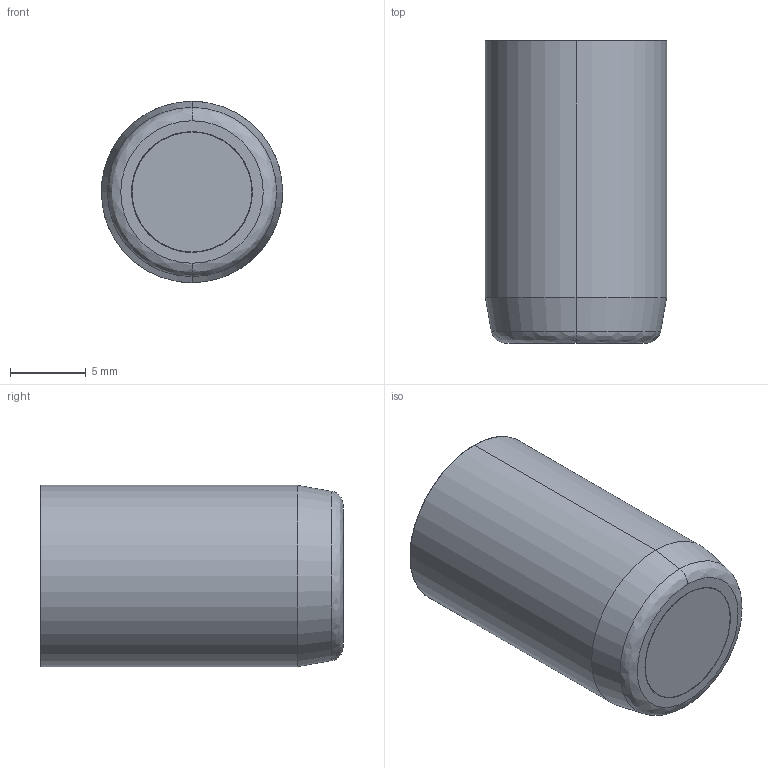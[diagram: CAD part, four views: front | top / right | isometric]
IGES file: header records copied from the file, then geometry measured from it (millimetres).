
Start section: START RECORD GO HERE.
Global section: file name: fa126712-20.igs; native system: DASSAULT SYSTEMES CATIA V5 R20 - www.3ds.com; preprocessor: CATIA Version 5 Release 20 ; author: Utente; organization: NB04-ASUS; date: 20201108.083558; units: millimetre
Bounding box: 12 x 20 x 12 mm (x, y, z)
Surface area: 2186.5 mm2 (no closed solid volume)
Topology: 0 solids, 0 shells, 424 faces, 2109 edges, 2102 vertices
Faces by surface type: revolution 205, plane 151, bspline 68
